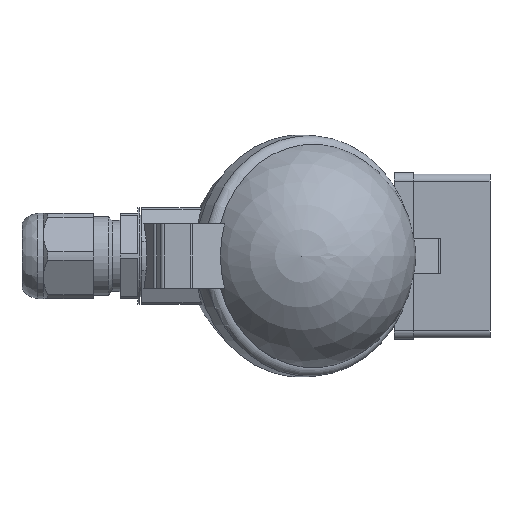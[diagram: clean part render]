
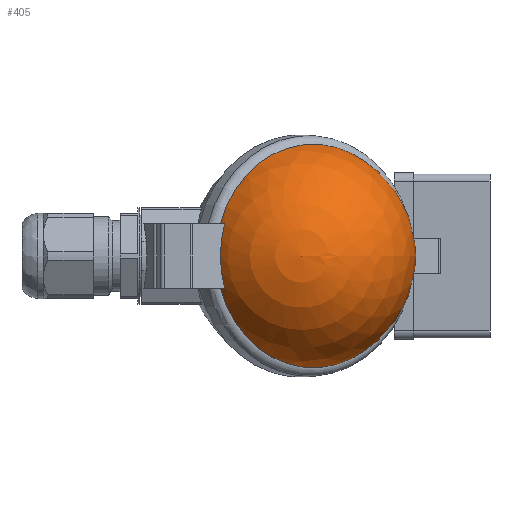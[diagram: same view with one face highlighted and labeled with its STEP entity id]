
A CAD part, left-side view. The second image highlights one B-rep face of the part: STEP entity #405.
In plain terms, the highlighted spherical face has radius 32 mm.
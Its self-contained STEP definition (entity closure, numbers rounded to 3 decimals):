
#405 = ADVANCED_FACE( '', ( #901, #902 ), #903, .T. );
#901 = FACE_BOUND( '', #1540, .T. );
#902 = FACE_OUTER_BOUND( '', #1541, .T. );
#903 = SPHERICAL_SURFACE( '', #1542, 32. );
#1540 = VERTEX_LOOP( '', #2546 );
#1541 = EDGE_LOOP( '', ( #2547, #2548, #2549, #2550, #2551, #2552, #2553, #2554 ) );
#1542 = AXIS2_PLACEMENT_3D( '', #2555, #2556, #2557 );
#2546 = VERTEX_POINT( '', #3807 );
#2547 = ORIENTED_EDGE( '', *, *, #3789, .F. );
#2548 = ORIENTED_EDGE( '', *, *, #3590, .T. );
#2549 = ORIENTED_EDGE( '', *, *, #3785, .T. );
#2550 = ORIENTED_EDGE( '', *, *, #3632, .F. );
#2551 = ORIENTED_EDGE( '', *, *, #3778, .F. );
#2552 = ORIENTED_EDGE( '', *, *, #3744, .F. );
#2553 = ORIENTED_EDGE( '', *, *, #3808, .T. );
#2554 = ORIENTED_EDGE( '', *, *, #3809, .T. );
#2555 = CARTESIAN_POINT( '', ( -70.7, 0., 0. ) );
#2556 = DIRECTION( '', ( 1., 0., 0. ) );
#2557 = DIRECTION( '', ( 0., -1., 0. ) );
#3590 = EDGE_CURVE( '', #4297, #4298, #4299, .F. );
#3632 = EDGE_CURVE( '', #4368, #4371, #4372, .F. );
#3744 = EDGE_CURVE( '', #4548, #4533, #4550, .F. );
#3778 = EDGE_CURVE( '', #4533, #4368, #4601, .F. );
#3785 = EDGE_CURVE( '', #4298, #4371, #4610, .F. );
#3789 = EDGE_CURVE( '', #4297, #4613, #4616, .F. );
#3807 = CARTESIAN_POINT( '', ( -102.7, 0., 0. ) );
#3808 = EDGE_CURVE( '', #4548, #4637, #4638, .F. );
#3809 = EDGE_CURVE( '', #4637, #4613, #4639, .F. );
#4297 = VERTEX_POINT( '', #5314 );
#4298 = VERTEX_POINT( '', #5315 );
#4299 = CIRCLE( '', #5316, 31.607 );
#4368 = VERTEX_POINT( '', #5414 );
#4371 = VERTEX_POINT( '', #5426 );
#4372 = CIRCLE( '', #5427, 31.607 );
#4533 = VERTEX_POINT( '', #5676 );
#4548 = VERTEX_POINT( '', #5711 );
#4550 = CIRCLE( '', #5714, 30.708 );
#4601 = CIRCLE( '', #5779, 31.368 );
#4610 = CIRCLE( '', #5789, 31.291 );
#4613 = VERTEX_POINT( '', #5792 );
#4616 = CIRCLE( '', #5812, 31.368 );
#4637 = VERTEX_POINT( '', #5857 );
#4638 = CIRCLE( '', #5858, 30.984 );
#4639 = CIRCLE( '', #5859, 30.708 );
#5314 = CARTESIAN_POINT( '', ( -60.699, -29.983, -5. ) );
#5315 = CARTESIAN_POINT( '', ( -61.058, -30.1, -5. ) );
#5316 = AXIS2_PLACEMENT_3D( '', #6518, #6519, #6520 );
#5414 = CARTESIAN_POINT( '', ( -60.699, -29.983, 5. ) );
#5426 = CARTESIAN_POINT( '', ( -61.058, -30.1, 5. ) );
#5427 = AXIS2_PLACEMENT_3D( '', #6574, #6575, #6576 );
#5676 = CARTESIAN_POINT( '', ( -91.207, 22.858, 9. ) );
#5711 = CARTESIAN_POINT( '', ( -92.452, 21.676, 9. ) );
#5714 = AXIS2_PLACEMENT_3D( '', #6720, #6721, #6722 );
#5779 = AXIS2_PLACEMENT_3D( '', #6780, #6781, #6782 );
#5789 = AXIS2_PLACEMENT_3D( '', #6790, #6791, #6792 );
#5792 = CARTESIAN_POINT( '', ( -91.207, 22.858, -9. ) );
#5812 = AXIS2_PLACEMENT_3D( '', #6796, #6797, #6798 );
#5857 = CARTESIAN_POINT( '', ( -92.452, 21.676, -9. ) );
#5858 = AXIS2_PLACEMENT_3D( '', #6814, #6815, #6816 );
#5859 = AXIS2_PLACEMENT_3D( '', #6817, #6818, #6819 );
#6518 = CARTESIAN_POINT( '', ( -70.7, 0., -5. ) );
#6519 = DIRECTION( '', ( 0., 0., 1. ) );
#6520 = DIRECTION( '', ( 1., 0., 0. ) );
#6574 = CARTESIAN_POINT( '', ( -70.7, 0., 5. ) );
#6575 = DIRECTION( '', ( 0., 0., 1. ) );
#6576 = DIRECTION( '', ( 1., 0., 0. ) );
#6720 = CARTESIAN_POINT( '', ( -70.7, 0., 9. ) );
#6721 = DIRECTION( '', ( 0., 0., 1. ) );
#6722 = DIRECTION( '', ( 1., 0., 0. ) );
#6780 = CARTESIAN_POINT( '', ( -76.183, -3.165, 0. ) );
#6781 = DIRECTION( '', ( -0.866, -0.5, 0. ) );
#6782 = DIRECTION( '', ( 0.5, -0.866, 0. ) );
#6790 = CARTESIAN_POINT( '', ( -76.502, -3.35, 0. ) );
#6791 = DIRECTION( '', ( 0.866, 0.5, 0. ) );
#6792 = DIRECTION( '', ( -0.5, 0.866, 0. ) );
#6796 = CARTESIAN_POINT( '', ( -76.183, -3.165, 0. ) );
#6797 = DIRECTION( '', ( -0.866, -0.5, 0. ) );
#6798 = DIRECTION( '', ( 0.5, -0.866, 0. ) );
#6814 = CARTESIAN_POINT( '', ( -77.628, -4., 0. ) );
#6815 = DIRECTION( '', ( 0.866, 0.5, 0. ) );
#6816 = DIRECTION( '', ( -0.5, 0.866, 0. ) );
#6817 = CARTESIAN_POINT( '', ( -70.7, 0., -9. ) );
#6818 = DIRECTION( '', ( 0., 0., 1. ) );
#6819 = DIRECTION( '', ( 1., 0., 0. ) );
